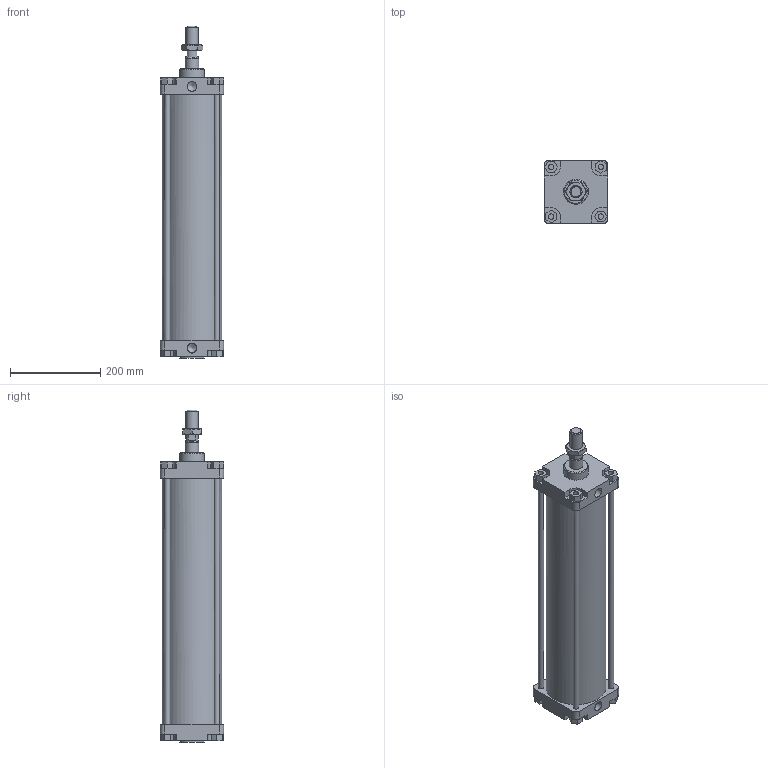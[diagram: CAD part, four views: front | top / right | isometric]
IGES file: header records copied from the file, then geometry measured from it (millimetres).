
Global section: file name: 1305_125_0450_01A; native system: Autodesk Inventor 2014; preprocessor: unknown; author: A. Manieri; date: 20161124.143328; units: millimetre
Bounding box: 140 x 140 x 736 mm (x, y, z)
Volume: 4040565.1 mm3; surface area: 797510.2 mm2
Topology: 9 solids, 9 shells, 175 faces, 440 edges, 295 vertices
Faces by surface type: bspline 175
